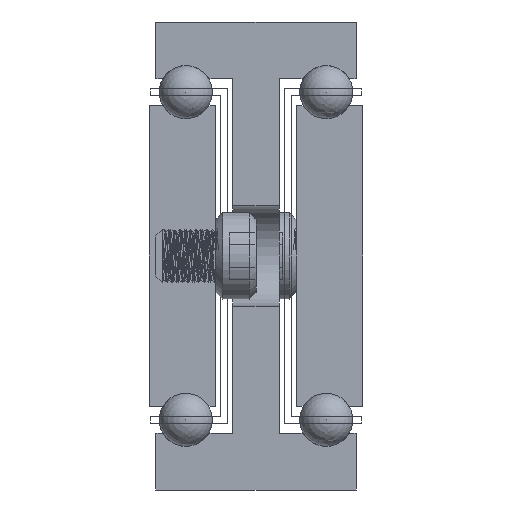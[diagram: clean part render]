
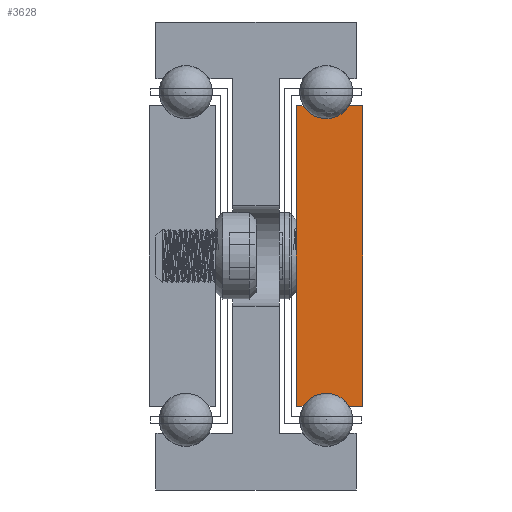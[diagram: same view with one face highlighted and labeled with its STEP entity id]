
A CAD part, front view. The second image highlights one B-rep face of the part: STEP entity #3628.
In plain terms, the highlighted planar face has unit normal (0, -1, 0).
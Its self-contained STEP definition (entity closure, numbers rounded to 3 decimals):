
#468=PLANE('',#3920);
#570=FACE_OUTER_BOUND('',#796,.T.);
#796=EDGE_LOOP('',(#2960,#2961,#2962,#2963,#2964,#2965,#2966,#2967));
#1168=LINE('',#5592,#1380);
#1172=LINE('',#5600,#1384);
#1176=LINE('',#5612,#1388);
#1179=LINE('',#5618,#1391);
#1182=LINE('',#5624,#1394);
#1186=LINE('',#5635,#1398);
#1380=VECTOR('',#4500,1.);
#1384=VECTOR('',#4506,1.);
#1388=VECTOR('',#4518,1.);
#1391=VECTOR('',#4523,1.);
#1394=VECTOR('',#4528,1.);
#1398=VECTOR('',#4540,1.);
#1556=CIRCLE('',#3911,4.);
#1558=CIRCLE('',#3917,4.);
#1852=VERTEX_POINT('',#5590);
#1853=VERTEX_POINT('',#5591);
#1856=VERTEX_POINT('',#5599);
#1858=VERTEX_POINT('',#5605);
#1860=VERTEX_POINT('',#5611);
#1862=VERTEX_POINT('',#5617);
#1864=VERTEX_POINT('',#5623);
#1866=VERTEX_POINT('',#5629);
#2334=EDGE_CURVE('',#1852,#1853,#1168,.T.);
#2338=EDGE_CURVE('',#1853,#1856,#1172,.T.);
#2341=EDGE_CURVE('',#1856,#1858,#1556,.T.);
#2344=EDGE_CURVE('',#1858,#1860,#1176,.T.);
#2347=EDGE_CURVE('',#1860,#1862,#1179,.T.);
#2350=EDGE_CURVE('',#1862,#1864,#1182,.T.);
#2353=EDGE_CURVE('',#1864,#1866,#1558,.T.);
#2356=EDGE_CURVE('',#1866,#1852,#1186,.T.);
#2960=ORIENTED_EDGE('',*,*,#2356,.T.);
#2961=ORIENTED_EDGE('',*,*,#2334,.T.);
#2962=ORIENTED_EDGE('',*,*,#2338,.T.);
#2963=ORIENTED_EDGE('',*,*,#2341,.T.);
#2964=ORIENTED_EDGE('',*,*,#2344,.T.);
#2965=ORIENTED_EDGE('',*,*,#2347,.T.);
#2966=ORIENTED_EDGE('',*,*,#2350,.T.);
#2967=ORIENTED_EDGE('',*,*,#2353,.T.);
#3628=ADVANCED_FACE('',(#570),#468,.F.);
#3911=AXIS2_PLACEMENT_3D('',#5606,#4511,#4512);
#3917=AXIS2_PLACEMENT_3D('',#5630,#4533,#4534);
#3920=AXIS2_PLACEMENT_3D('',#5637,#4542,#4543);
#4500=DIRECTION('',(0.,0.,1.));
#4506=DIRECTION('',(-1.,0.,0.));
#4511=DIRECTION('center_axis',(0.,1.,0.));
#4512=DIRECTION('ref_axis',(0.866,0.,-0.5));
#4518=DIRECTION('',(-1.,0.,0.));
#4523=DIRECTION('',(0.,0.,-1.));
#4528=DIRECTION('',(1.,0.,0.));
#4533=DIRECTION('center_axis',(0.,1.,0.));
#4534=DIRECTION('ref_axis',(-0.866,0.,0.5));
#4540=DIRECTION('',(1.,0.,0.));
#4542=DIRECTION('center_axis',(0.,1.,0.));
#4543=DIRECTION('ref_axis',(-1.,0.,0.));
#5590=CARTESIAN_POINT('',(-9403.086,384.593,752.5));
#5591=CARTESIAN_POINT('',(-9403.086,384.593,797.5));
#5592=CARTESIAN_POINT('',(-9403.086,384.593,752.5));
#5599=CARTESIAN_POINT('',(-9405.121,384.593,797.5));
#5600=CARTESIAN_POINT('',(-9403.086,384.593,797.5));
#5605=CARTESIAN_POINT('',(-9412.05,384.593,797.5));
#5606=CARTESIAN_POINT('Origin',(-9408.586,384.593,799.5));
#5611=CARTESIAN_POINT('',(-9413.086,384.593,797.5));
#5612=CARTESIAN_POINT('',(-9412.05,384.593,797.5));
#5617=CARTESIAN_POINT('',(-9413.086,384.593,752.5));
#5618=CARTESIAN_POINT('',(-9413.086,384.593,797.5));
#5623=CARTESIAN_POINT('',(-9412.05,384.593,752.5));
#5624=CARTESIAN_POINT('',(-9413.086,384.593,752.5));
#5629=CARTESIAN_POINT('',(-9405.121,384.593,752.5));
#5630=CARTESIAN_POINT('Origin',(-9408.586,384.593,750.5));
#5635=CARTESIAN_POINT('',(-9405.121,384.593,752.5));
#5637=CARTESIAN_POINT('Origin',(-9408.08,384.593,775.));
